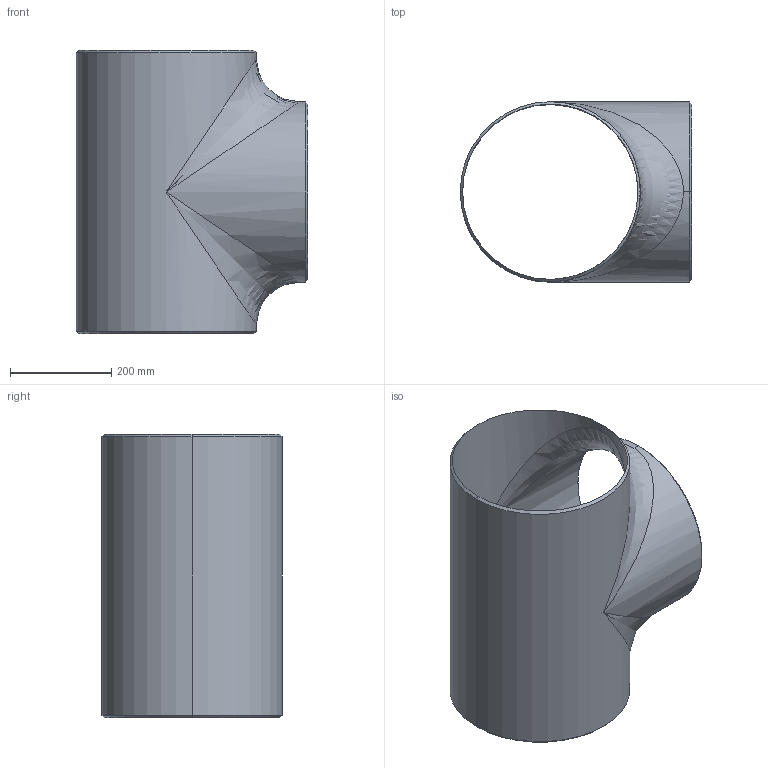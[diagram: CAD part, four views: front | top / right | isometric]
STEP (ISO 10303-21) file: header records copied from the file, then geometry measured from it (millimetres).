
FILE_DESCRIPTION (( 'STEP AP203' ), '1' );
FILE_NAME ('3D_R266_14x10S_173445330.STEP', '2024-08-23T11:24:20', ( '' ), ( '' ), 'SwSTEP 2.0', 'SolidWorks 2024', '' );
FILE_SCHEMA (( 'CONFIG_CONTROL_DESIGN' ));
Length unit declared in the file: millimetre
Products named in the file (1): 3D_R266_14x10S_173445330
Bounding box: 457.2 x 355.6 x 558.8 mm (x, y, z)
Volume: 3145671.5 mm3; surface area: 1338218.8 mm2
Topology: 1 solids, 1 shells, 21 faces, 58 edges, 30 vertices
Faces by surface type: cylinder 8, cone 6, bspline 4, plane 3
Entity records: 1603 total; most frequent: CARTESIAN_POINT 1082, ORIENTED_EDGE 100, DIRECTION 88, EDGE_CURVE 50, AXIS2_PLACEMENT_3D 36, VERTEX_POINT 30, EDGE_LOOP 24, ADVANCED_FACE 21
